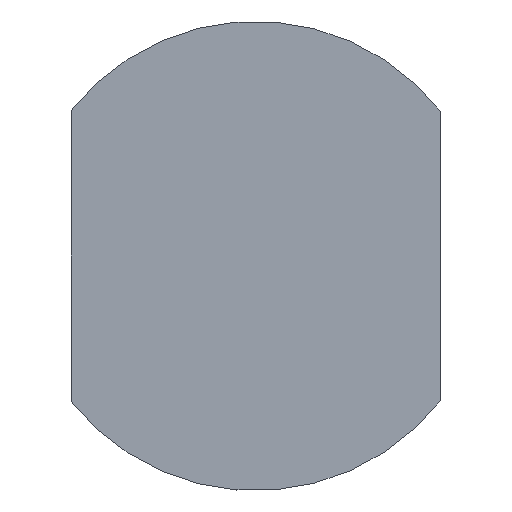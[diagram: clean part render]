
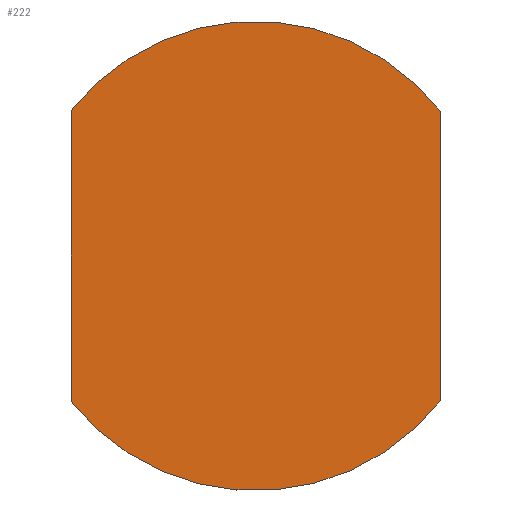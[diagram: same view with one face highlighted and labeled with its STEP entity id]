
A CAD part, front view. The second image highlights one B-rep face of the part: STEP entity #222.
In plain terms, the highlighted planar face has unit normal (0, -1, 0).
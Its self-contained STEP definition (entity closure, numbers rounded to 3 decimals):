
#1=CARTESIAN_POINT('',(0.,0.,0.));
#2=DIRECTION('',(0.,-1.,0.));
#3=DIRECTION('',(-0.786,0.,-0.619));
#4=AXIS2_PLACEMENT_3D('',#1,#2,#3);
#28=CARTESIAN_POINT('',(0.,0.,0.));
#29=DIRECTION('',(0.,-1.,0.));
#30=DIRECTION('',(0.79,0.,0.613));
#31=AXIS2_PLACEMENT_3D('',#28,#29,#30);
#37=DIRECTION('',(0.,0.,1.));
#38=VECTOR('',#37,1.237);
#39=CARTESIAN_POINT('',(-0.786,0.,-0.619));
#40=LINE('',#39,#38);
#41=DIRECTION('',(0.,0.,-1.));
#42=VECTOR('',#41,1.226);
#43=CARTESIAN_POINT('',(0.79,0.,0.613));
#44=LINE('',#43,#42);
#161=CARTESIAN_POINT('',(-0.786,0.,-0.619));
#163=VERTEX_POINT('',#161);
#165=CARTESIAN_POINT('',(-0.786,0.,0.619));
#167=VERTEX_POINT('',#165);
#173=CARTESIAN_POINT('',(0.79,0.,0.613));
#174=CARTESIAN_POINT('',(0.79,0.,-0.613));
#175=VERTEX_POINT('',#173);
#176=VERTEX_POINT('',#174);
#209=CARTESIAN_POINT('',(0.,0.,0.));
#210=DIRECTION('',(0.,1.,0.));
#211=DIRECTION('',(0.,0.,-1.));
#212=AXIS2_PLACEMENT_3D('',#209,#210,#211);
#213=PLANE('',#212);
#215=ORIENTED_EDGE('',*,*,#214,.T.);
#216=ORIENTED_EDGE('',*,*,#202,.F.);
#218=ORIENTED_EDGE('',*,*,#217,.T.);
#219=ORIENTED_EDGE('',*,*,#182,.F.);
#220=EDGE_LOOP('',(#215,#216,#218,#219));
#221=FACE_OUTER_BOUND('',#220,.F.);
#222=ADVANCED_FACE('',(#221),#213,.F.);
#5=CIRCLE('',#4,1.);
#32=CIRCLE('',#31,1.);
#182=EDGE_CURVE('',#163,#176,#5,.T.);
#202=EDGE_CURVE('',#175,#167,#32,.T.);
#214=EDGE_CURVE('',#163,#167,#40,.T.);
#217=EDGE_CURVE('',#175,#176,#44,.T.);
